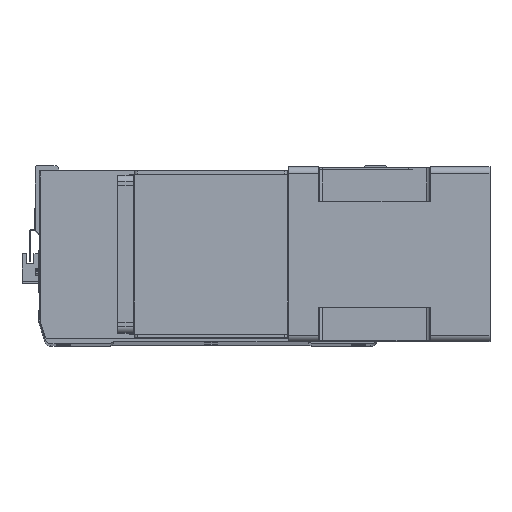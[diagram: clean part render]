
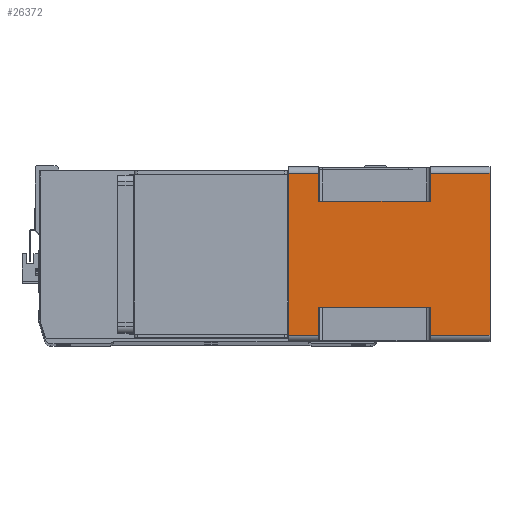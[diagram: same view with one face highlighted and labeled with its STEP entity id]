
A CAD part, top view. The second image highlights one B-rep face of the part: STEP entity #26372.
In plain terms, the highlighted planar face has unit normal (0, 0, 1) as drawn and (1, 0, 0) by its records, which use the part's own axes.
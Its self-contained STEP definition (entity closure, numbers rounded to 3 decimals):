
#203 = EDGE_CURVE ( 'NONE', #9190, #12615, #26750, .T. ) ;
#401 = EDGE_CURVE ( 'NONE', #9069, #5326, #17835, .T. ) ;
#1480 = CARTESIAN_POINT ( 'NONE',  ( 71., 43., -24.5 ) ) ;
#1785 = LINE ( 'NONE', #3647, #28335 ) ;
#1824 = CARTESIAN_POINT ( 'NONE',  ( 71., 43., -164. ) ) ;
#2474 = CARTESIAN_POINT ( 'NONE',  ( 71., 66., -115.5 ) ) ;
#2664 = LINE ( 'NONE', #10881, #10325 ) ;
#2896 = ORIENTED_EDGE ( 'NONE', *, *, #19286, .T. ) ;
#3647 = CARTESIAN_POINT ( 'NONE',  ( 71., -66., -24.5 ) ) ;
#3780 = CARTESIAN_POINT ( 'NONE',  ( 71., -43., -24.5 ) ) ;
#3956 = CARTESIAN_POINT ( 'NONE',  ( 71., -66., -115.5 ) ) ;
#4945 = VERTEX_POINT ( 'NONE', #7267 ) ;
#5326 = VERTEX_POINT ( 'NONE', #3780 ) ;
#5805 = EDGE_CURVE ( 'NONE', #4945, #5326, #6867, .T. ) ;
#5810 = VERTEX_POINT ( 'NONE', #1480 ) ;
#6044 = VECTOR ( 'NONE', #13926, 1000. ) ;
#6131 = ORIENTED_EDGE ( 'NONE', *, *, #401, .F. ) ;
#6478 = EDGE_CURVE ( 'NONE', #19875, #12303, #25250, .T. ) ;
#6487 = DIRECTION ( 'NONE',  ( 0., 0., 1. ) ) ;
#6867 = LINE ( 'NONE', #26708, #27900 ) ;
#7206 = VECTOR ( 'NONE', #30321, 1000. ) ;
#7267 = CARTESIAN_POINT ( 'NONE',  ( 71., -66., -24.5 ) ) ;
#7537 = VECTOR ( 'NONE', #26609, 1000. ) ;
#7655 = VERTEX_POINT ( 'NONE', #3956 ) ;
#7794 = ORIENTED_EDGE ( 'NONE', *, *, #5805, .T. ) ;
#8132 = CARTESIAN_POINT ( 'NONE',  ( 71., 66., 0. ) ) ;
#8262 = VECTOR ( 'NONE', #25583, 1000. ) ;
#8391 = VECTOR ( 'NONE', #27060, 1000. ) ;
#8606 = CARTESIAN_POINT ( 'NONE',  ( 71., -66., -164. ) ) ;
#8758 = EDGE_CURVE ( 'NONE', #9069, #7655, #30228, .T. ) ;
#9069 = VERTEX_POINT ( 'NONE', #23354 ) ;
#9080 = CARTESIAN_POINT ( 'NONE',  ( 71., -66., -164. ) ) ;
#9190 = VERTEX_POINT ( 'NONE', #23570 ) ;
#9448 = EDGE_CURVE ( 'NONE', #9190, #7655, #14676, .T. ) ;
#9833 = VERTEX_POINT ( 'NONE', #26621 ) ;
#10325 = VECTOR ( 'NONE', #6487, 1000. ) ;
#10686 = DIRECTION ( 'NONE',  ( 0., 1., 0. ) ) ;
#10881 = CARTESIAN_POINT ( 'NONE',  ( 71., 66., -164. ) ) ;
#11007 = LINE ( 'NONE', #21205, #15487 ) ;
#11058 = EDGE_CURVE ( 'NONE', #9833, #12303, #2664, .T. ) ;
#11142 = ORIENTED_EDGE ( 'NONE', *, *, #16062, .F. ) ;
#11570 = CARTESIAN_POINT ( 'NONE',  ( 71., 66., -164. ) ) ;
#12136 = VERTEX_POINT ( 'NONE', #28572 ) ;
#12303 = VERTEX_POINT ( 'NONE', #8132 ) ;
#12615 = VERTEX_POINT ( 'NONE', #11570 ) ;
#13926 = DIRECTION ( 'NONE',  ( 0., 1., 0. ) ) ;
#14676 = LINE ( 'NONE', #8606, #8391 ) ;
#15452 = ORIENTED_EDGE ( 'NONE', *, *, #203, .T. ) ;
#15487 = VECTOR ( 'NONE', #23467, 1000. ) ;
#15712 = CARTESIAN_POINT ( 'NONE',  ( 71., -66., -115.5 ) ) ;
#16062 = EDGE_CURVE ( 'NONE', #4945, #19875, #19679, .T. ) ;
#16925 = VECTOR ( 'NONE', #17774, 1000. ) ;
#16935 = ORIENTED_EDGE ( 'NONE', *, *, #20123, .T. ) ;
#17123 = DIRECTION ( 'NONE',  ( 0., 1., 0. ) ) ;
#17264 = VECTOR ( 'NONE', #23006, 1000. ) ;
#17774 = DIRECTION ( 'NONE',  ( 0., -1., 0. ) ) ;
#17835 = LINE ( 'NONE', #28690, #7537 ) ;
#18066 = EDGE_LOOP ( 'NONE', ( #6131, #28503, #26612, #15452, #16935, #25764, #26332, #2896, #21237, #29163, #11142, #7794 ) ) ;
#19286 = EDGE_CURVE ( 'NONE', #5810, #9833, #1785, .T. ) ;
#19679 = LINE ( 'NONE', #9080, #8262 ) ;
#19875 = VERTEX_POINT ( 'NONE', #20319 ) ;
#20123 = EDGE_CURVE ( 'NONE', #12615, #20518, #21957, .T. ) ;
#20319 = CARTESIAN_POINT ( 'NONE',  ( 71., -66., 0. ) ) ;
#20518 = VERTEX_POINT ( 'NONE', #2474 ) ;
#21052 = CARTESIAN_POINT ( 'NONE',  ( 71., -66., 0. ) ) ;
#21205 = CARTESIAN_POINT ( 'NONE',  ( 71., 43., -115.5 ) ) ;
#21237 = ORIENTED_EDGE ( 'NONE', *, *, #11058, .T. ) ;
#21867 = CARTESIAN_POINT ( 'NONE',  ( 71., -66., -164. ) ) ;
#21957 = LINE ( 'NONE', #26204, #24548 ) ;
#22147 = DIRECTION ( 'NONE',  ( 0., 0., 1. ) ) ;
#22605 = EDGE_CURVE ( 'NONE', #5810, #12136, #23550, .T. ) ;
#23006 = DIRECTION ( 'NONE',  ( 0., 0., -1. ) ) ;
#23354 = CARTESIAN_POINT ( 'NONE',  ( 71., -43., -115.5 ) ) ;
#23467 = DIRECTION ( 'NONE',  ( 0., -1., 0. ) ) ;
#23550 = LINE ( 'NONE', #1824, #17264 ) ;
#23570 = CARTESIAN_POINT ( 'NONE',  ( 71., -66., -164. ) ) ;
#24548 = VECTOR ( 'NONE', #22147, 1000. ) ;
#25250 = LINE ( 'NONE', #21052, #6044 ) ;
#25562 = FACE_OUTER_BOUND ( 'NONE', #18066, .T. ) ;
#25583 = DIRECTION ( 'NONE',  ( 0., 0., 1. ) ) ;
#25764 = ORIENTED_EDGE ( 'NONE', *, *, #29747, .T. ) ;
#26204 = CARTESIAN_POINT ( 'NONE',  ( 71., 66., -164. ) ) ;
#26332 = ORIENTED_EDGE ( 'NONE', *, *, #22605, .F. ) ;
#26372 = ADVANCED_FACE ( 'NONE', ( #25562 ), #26543, .T. ) ;
#26543 = PLANE ( 'NONE',  #30370 ) ;
#26609 = DIRECTION ( 'NONE',  ( 0., 0., 1. ) ) ;
#26612 = ORIENTED_EDGE ( 'NONE', *, *, #9448, .F. ) ;
#26621 = CARTESIAN_POINT ( 'NONE',  ( 71., 66., -24.5 ) ) ;
#26708 = CARTESIAN_POINT ( 'NONE',  ( 71., -43., -24.5 ) ) ;
#26750 = LINE ( 'NONE', #30225, #7206 ) ;
#26913 = DIRECTION ( 'NONE',  ( 0., 1., 0. ) ) ;
#27060 = DIRECTION ( 'NONE',  ( 0., 0., 1. ) ) ;
#27900 = VECTOR ( 'NONE', #26913, 1000. ) ;
#28335 = VECTOR ( 'NONE', #10686, 1000. ) ;
#28503 = ORIENTED_EDGE ( 'NONE', *, *, #8758, .T. ) ;
#28572 = CARTESIAN_POINT ( 'NONE',  ( 71., 43., -115.5 ) ) ;
#28690 = CARTESIAN_POINT ( 'NONE',  ( 71., -43., -164. ) ) ;
#28814 = DIRECTION ( 'NONE',  ( 1., 0., 0. ) ) ;
#29163 = ORIENTED_EDGE ( 'NONE', *, *, #6478, .F. ) ;
#29747 = EDGE_CURVE ( 'NONE', #20518, #12136, #11007, .T. ) ;
#30225 = CARTESIAN_POINT ( 'NONE',  ( 71., -66., -164. ) ) ;
#30228 = LINE ( 'NONE', #15712, #16925 ) ;
#30321 = DIRECTION ( 'NONE',  ( 0., 1., 0. ) ) ;
#30370 = AXIS2_PLACEMENT_3D ( 'NONE', #21867, #28814, #17123 ) ;
